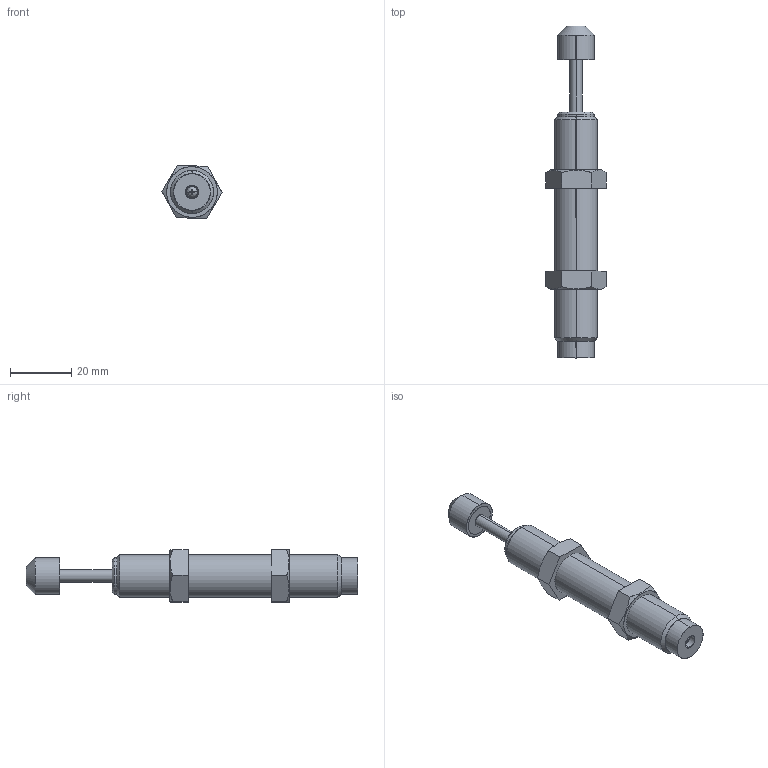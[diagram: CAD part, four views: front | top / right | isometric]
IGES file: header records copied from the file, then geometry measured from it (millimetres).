
Start section: SolidWorks IGES file using analytic representation for surfaces
Global section: file name: Y:\CAD\HP梡CAD僨乕僞\210305_HP峏怴梡\3D\FK-1417-R.IGS; native system: SolidWorks 2021; preprocessor: SolidWorks 2021; author: flgijutsu; date: 210310.161015; units: millimetre
Bounding box: 19.62 x 108 x 17.24 mm (x, y, z)
Surface area: 6128.4 mm2 (no closed solid volume)
Topology: 0 solids, 0 shells, 55 faces, 936 edges, 936 vertices
Faces by surface type: revolution 32, bspline 23
